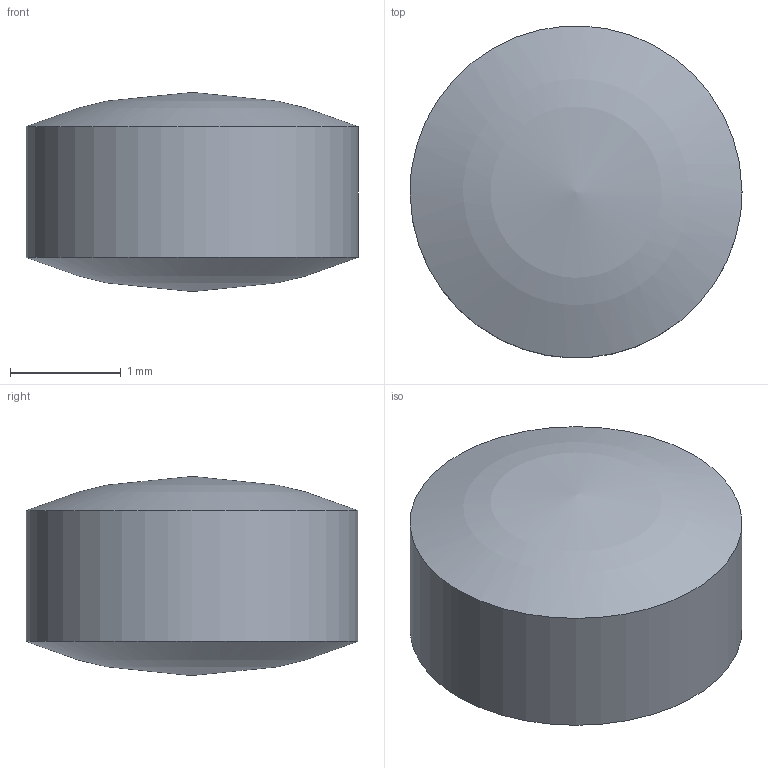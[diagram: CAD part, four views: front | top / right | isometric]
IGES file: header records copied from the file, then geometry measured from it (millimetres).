
Global section: file name: SLM-03B-04P; native system: Autodesk Inventor 2015; preprocessor: unknown; author: r.sato; date: 20161219.192325; units: millimetre
Bounding box: 3 x 3 x 1.8 mm (x, y, z)
Volume: 10.6 mm3; surface area: 25.9 mm2
Topology: 1 solids, 1 shells, 3 faces, 5 edges, 4 vertices
Faces by surface type: bspline 3
